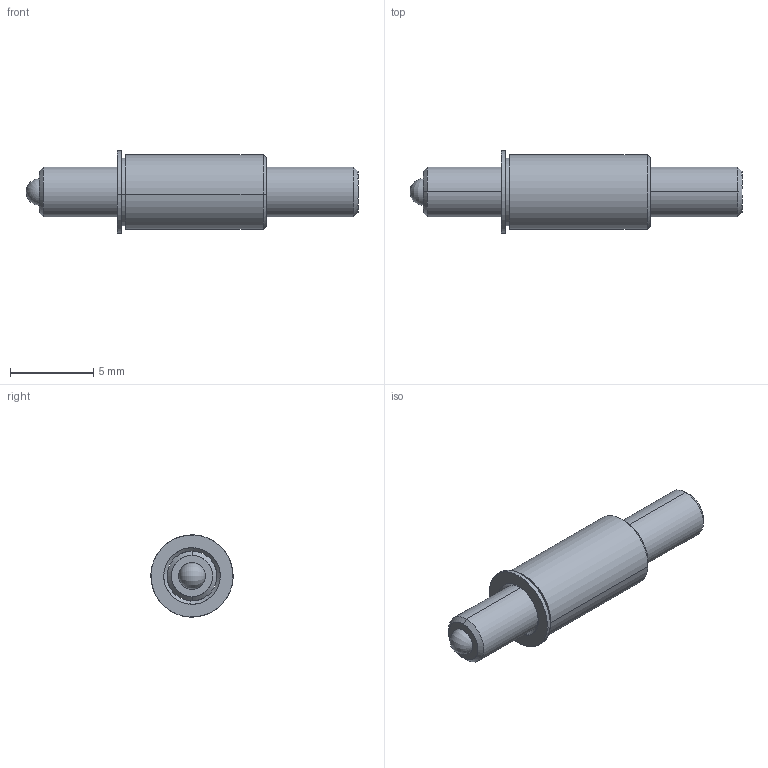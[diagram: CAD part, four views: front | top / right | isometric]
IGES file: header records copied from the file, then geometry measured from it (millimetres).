
Start section: SolidWorks IGES file using analytic representation for surfaces
Global section: file name: C:\Users\workpc\Desktop\KMA Solidworks\TSBM3-25-20_9.IGS; native system: SolidWorks 2013; preprocessor: SolidWorks 2013; author: workpc; date: 130314.161448; units: inch
Bounding box: 20 x 4.95 x 4.95 mm (x, y, z)
Surface area: 363.6 mm2 (no closed solid volume)
Topology: 0 solids, 0 shells, 32 faces, 446 edges, 442 vertices
Faces by surface type: revolution 20, bspline 12
